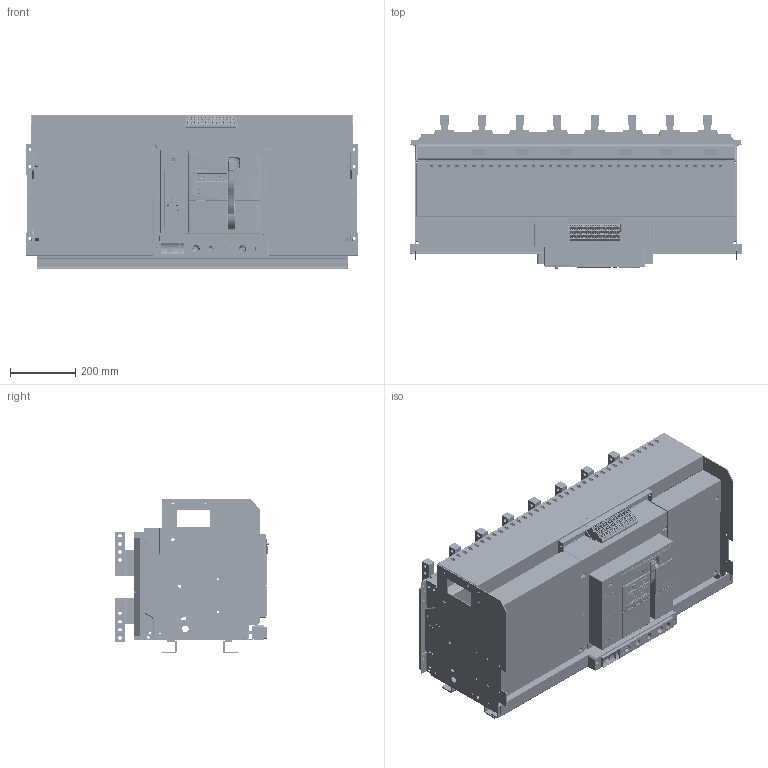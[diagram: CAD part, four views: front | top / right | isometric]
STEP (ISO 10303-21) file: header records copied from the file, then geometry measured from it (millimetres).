
FILE_DESCRIPTION((''),'2;1');
FILE_NAME('NA8-7500-6300-4P_ASM','2020-03-17T16:46:42',('lcc'),(''),'CREO PARAMETRIC BY PTC INC, 2018020','CREO PARAMETRIC BY PTC INC, 2018020','');
FILE_SCHEMA(('CONFIG_CONTROL_DESIGN','SHAPE_APPEARANCE_LAYERS_GROUPS'));
Products named in the file (41): 8050A0306119N; 8050A0306118; 8050A0306117; 8300A0304104; 8ZTD-300-536; 8ZTD-060-207; 8300A0101114; 8300A0101116; 8073A0306102; 8140A0306104; 8150A0306106; 5073A1526102_ASM; 8073A0306103; 4PJIZUO-01; 4PJIZUO-02; 8580A0412115; 8580A0412021; 8ZTD-253-779; 8ZTD-253-780; 8ZTD-253-782; 8ZTD-227-004; 8ZTD-321-090; 8ZTD-253-577; 8-040-432; 8-004-030; 8-320-094; 8-860-KZQ; 8ZTD-024-837; 8ZTD-557-514; 8ZTD-557-515; 8ZTD-557-516; 8ZTD-557-517; M3_GB6170; M3X8_GB818; 8ZTD-141-185; 8ZTD-141-184; 5ZTD-558-712_ASM; 8ZTD-860-699; 8ZTD-064-136; 5ZTD-558-695-4000_ASM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
Assembly tree (87 placements, depth 4):
  NA8-7500-6300-4P_ASM
    8050A0306119N
    8050A0306118
    8050A0306117
    8300A0304104
    8ZTD-300-536
    8ZTD-060-207
    8300A0101114
    8300A0101116
    5073A1526102_ASM
      8073A0306102
      8140A0306104  x2
      8150A0306106  x5
    8073A0306103  x2
    4PJIZUO-01
    4PJIZUO-02
    8580A0412115  x8
    8580A0412021  x16
    8ZTD-253-779
    8ZTD-253-780
    8ZTD-253-782
    8ZTD-227-004
    8ZTD-321-090
    8ZTD-253-577
    8-040-432
    8-004-030
    8-320-094
    8-860-KZQ
    5ZTD-558-695-4000_ASM
      5ZTD-558-712_ASM  x14
        8ZTD-024-837
        8ZTD-557-514
        8ZTD-557-515
        8ZTD-557-516
        8ZTD-557-517
        M3_GB6170
        M3X8_GB818
        8ZTD-141-185
        8ZTD-141-184
      8ZTD-860-699
      8ZTD-064-136
Bounding box: 1016 x 468.52 x 474 mm (x, y, z)
Volume: 38441008 mm3; surface area: 6940858.4 mm2
Topology: 265 solids, 267 shells, 24339 faces, 66047 edges, 42727 vertices
Faces by surface type: plane 16366, cylinder 4945, cone 1050, bspline 918, torus 451, sphere 384, extrusion 225
Entity records: 430718 total; most frequent: CARTESIAN_POINT 78804, ORIENTED_EDGE 50977, DIRECTION 47921, PRESENTATION_STYLE_ASSIGNMENT 30188, STYLED_ITEM 30052, EDGE_CURVE 25496, CURVE_STYLE 25013, VECTOR 18455
